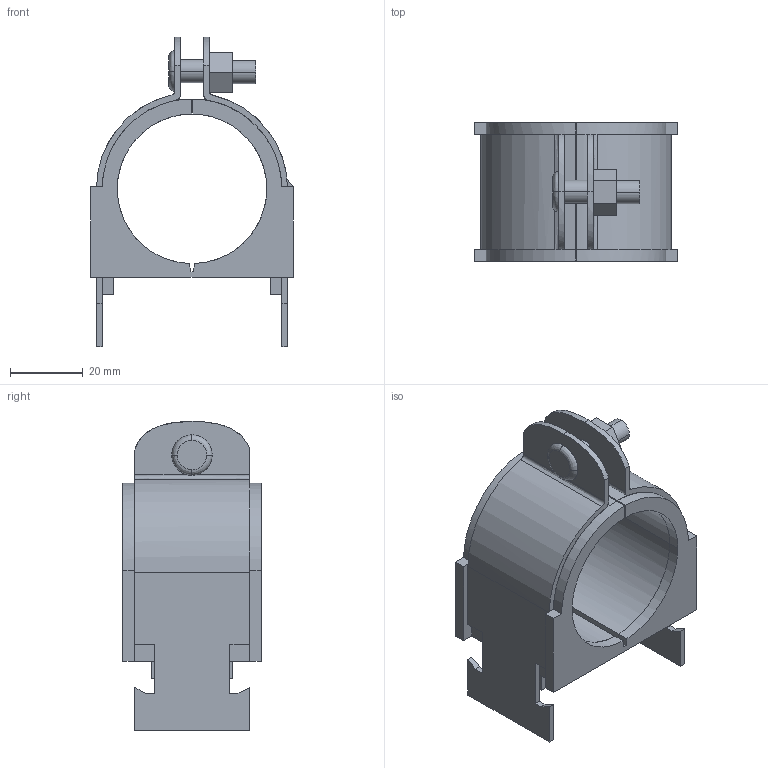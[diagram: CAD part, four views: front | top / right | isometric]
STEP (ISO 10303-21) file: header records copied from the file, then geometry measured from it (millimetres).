
FILE_DESCRIPTION(('TurboCAD Mac Pro'),'Build 980');
FILE_NAME('026N030.stp',' ',(''),(''),'ACIS Interop','IMSI','TurboCAD Mac Pro BY IMSI, INCORPORATED');
FILE_SCHEMA(('automotive_design'));
Length unit declared in the file: inch
Products named in the file (3): 1; 2; 3
Bounding box: 55.75 x 38.1 x 85.09 mm (x, y, z)
Volume: 43596.2 mm3; surface area: 27624.7 mm2
Topology: 3 solids, 3 shells, 144 faces, 387 edges, 250 vertices
Faces by surface type: plane 98, bspline 46
Entity records: 7012 total; most frequent: CARTESIAN_POINT 1744, ORIENTED_EDGE 774, DIRECTION 491, EDGE_CURVE 387, STYLED_ITEM 304, PRESENTATION_STYLE_ASSIGNMENT 304, COLOUR_RGB 304, LINE 281
